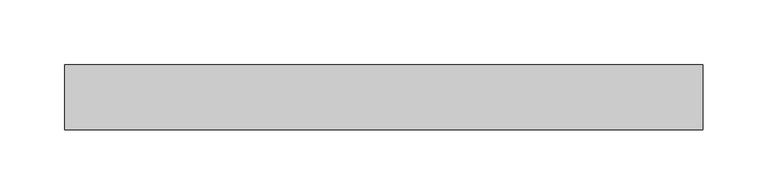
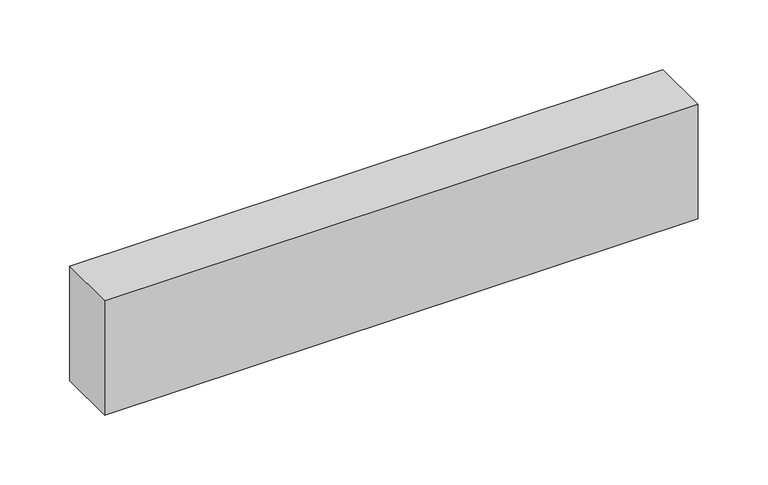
"""IFC4 building model written with IfcOpenShell, lengths in millimetres: light fixture geometry, ZYR_06.02.05 Tira Led : Tira Led 03."""

from ifc_helpers import new_model, si_unit, origin, origin_with_axes, place, context, project, spatial, polyline, outline, extrude, source, transform, mapped, element, save


def light_fixture_d0e7738b(model_context):
    return source(origin(), model_context, "Body", "SweptSolid", [
        extrude(outline(polyline([(245.7105336, 25.0), (245.7105336, -25.0), (-245.7105336, -25.0), (-245.7105336, 25.0), (245.7105336, 25.0)])), origin_with_axes(), (0.0, 0.0, 1.0), 100.0),
    ])


if __name__ == "__main__":
    model = new_model("IFC4")
    model_context = context("Model", 3, world=origin())
    ifc_project = project(units=[si_unit("LENGTHUNIT", "METRE", prefix="MILLI")], contexts=[model_context])
    site = spatial("IfcSite", under=ifc_project)
    building = spatial("IfcBuilding", under=site)
    placement = place(None, origin())
    light_fixture_shape = light_fixture_d0e7738b(model_context)
    element("IfcLightFixture", 1, ObjectType="ZYR_06.02.05 Tira Led : Tira Led 03", at=placement, inside=building, context=model_context, shape_type="MappedRepresentation", body=[
        mapped(light_fixture_shape, transform((0.0, 0.0, 0.0), x_axis=(1.0, 0.0, 0.0), y_axis=(0.0, 1.0, 0.0), z_axis=(0.0, 0.0, 1.0))),
    ])
    save(model, "model.ifc")
